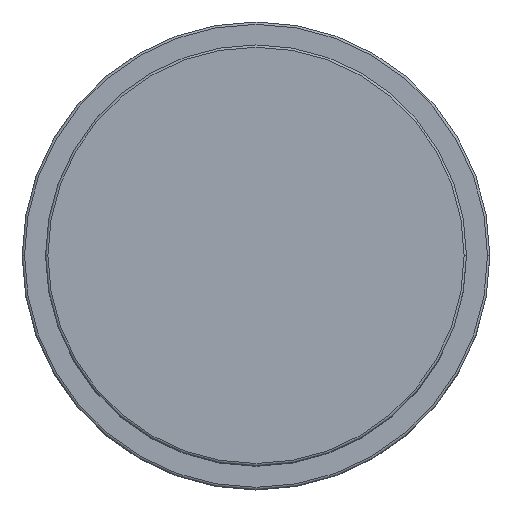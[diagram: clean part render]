
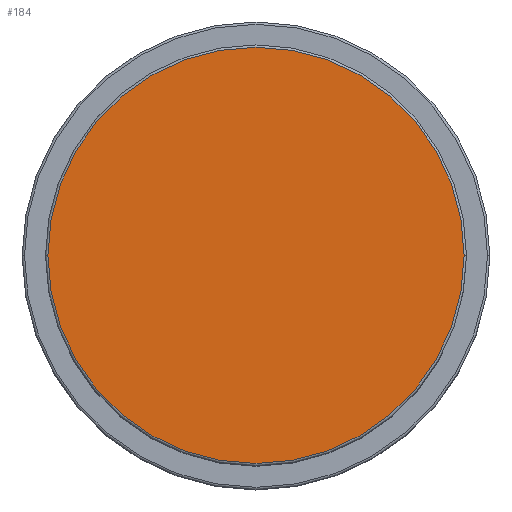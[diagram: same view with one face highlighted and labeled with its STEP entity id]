
A CAD part, top view. The second image highlights one B-rep face of the part: STEP entity #184.
In plain terms, the highlighted planar face has unit normal (0, 0, 1).
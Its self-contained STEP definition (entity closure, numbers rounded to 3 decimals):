
#35 = EDGE_LOOP ( 'NONE', ( #1756, #710 ) ) ;
#184 = ADVANCED_FACE ( 'NONE', ( #1678 ), #901, .T. ) ;
#308 = CIRCLE ( 'NONE', #1423, 44.5 ) ;
#323 = CARTESIAN_POINT ( 'NONE',  ( -44.5, 0., 77. ) ) ;
#374 = CIRCLE ( 'NONE', #530, 44.5 ) ;
#475 = DIRECTION ( 'NONE',  ( 1., 0., 0. ) ) ;
#484 = DIRECTION ( 'NONE',  ( 0., 0., 1. ) ) ;
#530 = AXIS2_PLACEMENT_3D ( 'NONE', #1016, #1725, #1298 ) ;
#609 = EDGE_CURVE ( 'NONE', #1029, #1081, #308, .T. ) ;
#621 = DIRECTION ( 'NONE',  ( 1., 0., 0. ) ) ;
#710 = ORIENTED_EDGE ( 'NONE', *, *, #609, .T. ) ;
#718 = AXIS2_PLACEMENT_3D ( 'NONE', #1045, #484, #621 ) ;
#901 = PLANE ( 'NONE',  #718 ) ;
#1016 = CARTESIAN_POINT ( 'NONE',  ( 0., 0., 77. ) ) ;
#1018 = CARTESIAN_POINT ( 'NONE',  ( 0., 0., 77. ) ) ;
#1022 = DIRECTION ( 'NONE',  ( 0., 0., 1. ) ) ;
#1029 = VERTEX_POINT ( 'NONE', #323 ) ;
#1045 = CARTESIAN_POINT ( 'NONE',  ( 0., 0., 77. ) ) ;
#1081 = VERTEX_POINT ( 'NONE', #1567 ) ;
#1298 = DIRECTION ( 'NONE',  ( 1., 0., 0. ) ) ;
#1423 = AXIS2_PLACEMENT_3D ( 'NONE', #1018, #1022, #475 ) ;
#1532 = EDGE_CURVE ( 'NONE', #1081, #1029, #374, .T. ) ;
#1567 = CARTESIAN_POINT ( 'NONE',  ( 44.5, 0., 77. ) ) ;
#1678 = FACE_OUTER_BOUND ( 'NONE', #35, .T. ) ;
#1725 = DIRECTION ( 'NONE',  ( 0., 0., 1. ) ) ;
#1756 = ORIENTED_EDGE ( 'NONE', *, *, #1532, .T. ) ;
